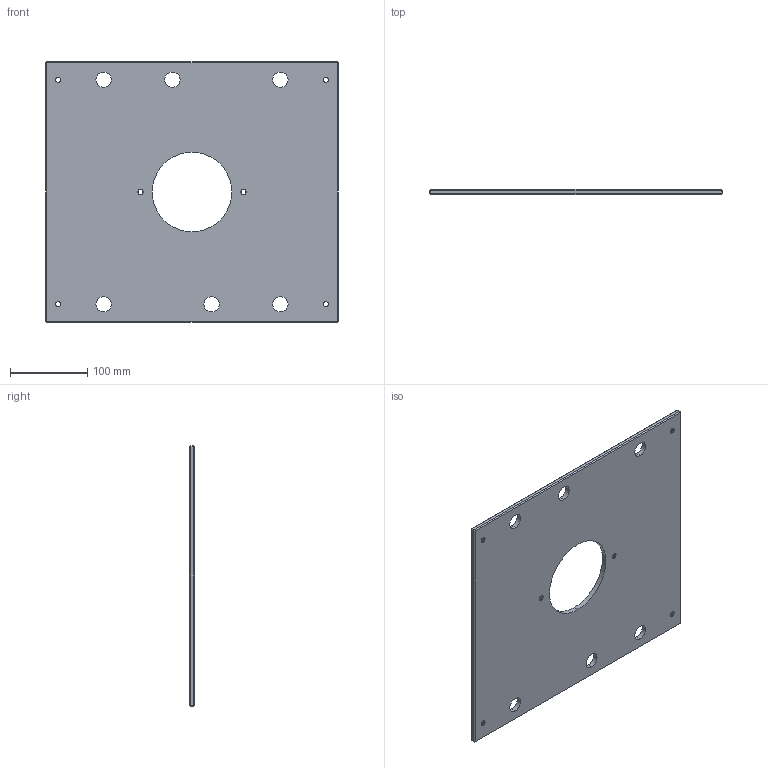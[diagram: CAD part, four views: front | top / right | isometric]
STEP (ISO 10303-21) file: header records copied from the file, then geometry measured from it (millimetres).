
FILE_DESCRIPTION (( 'STEP AP214' ), '1' );
FILE_NAME ('ME-0619-CH-1315-A.STEP', '2020-02-11T12:14:34', ( '' ), ( '' ), 'SwSTEP 2.0', 'SolidWorks 2018', '' );
FILE_SCHEMA (( 'AUTOMOTIVE_DESIGN' ));
Length unit declared in the file: inch
Products named in the file (1): ME-0619-CH-1315-A
Bounding box: 377.82 x 6.35 x 336.55 mm (x, y, z)
Volume: 737527.2 mm3; surface area: 245471.8 mm2
Topology: 1 solids, 1 shells, 64 faces, 150 edges, 88 vertices
Faces by surface type: cylinder 26, plane 26, cone 12
Entity records: 1902 total; most frequent: DIRECTION 344, CARTESIAN_POINT 303, ORIENTED_EDGE 300, EDGE_CURVE 150, AXIS2_PLACEMENT_3D 129, EDGE_LOOP 90, VERTEX_POINT 88, VECTOR 86
